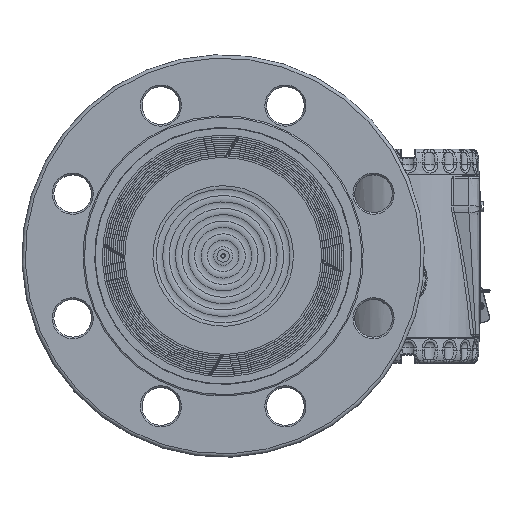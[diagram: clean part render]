
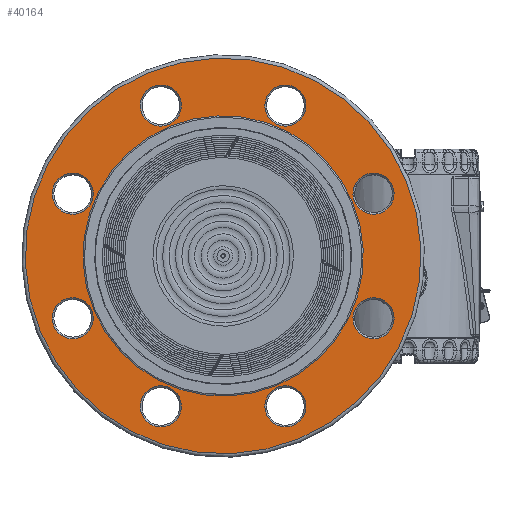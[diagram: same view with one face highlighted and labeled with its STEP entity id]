
A CAD part, top view. The second image highlights one B-rep face of the part: STEP entity #40164.
In plain terms, the highlighted planar face has unit normal (0, 0, 1) as drawn and (-1, 0, 0) by its records, which use the part's own axes.
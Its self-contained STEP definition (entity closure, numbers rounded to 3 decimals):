
#669=FACE_BOUND('',#6639,.T.);
#670=FACE_BOUND('',#6640,.T.);
#671=FACE_BOUND('',#6641,.T.);
#672=FACE_BOUND('',#6642,.T.);
#673=FACE_BOUND('',#6643,.T.);
#674=FACE_BOUND('',#6644,.T.);
#675=FACE_BOUND('',#6645,.T.);
#676=FACE_BOUND('',#6646,.T.);
#677=FACE_BOUND('',#6647,.T.);
#2588=PLANE('',#44620);
#3958=FACE_OUTER_BOUND('',#6638,.T.);
#6638=EDGE_LOOP('',(#30672,#30673));
#6639=EDGE_LOOP('',(#30674));
#6640=EDGE_LOOP('',(#30675));
#6641=EDGE_LOOP('',(#30676));
#6642=EDGE_LOOP('',(#30677));
#6643=EDGE_LOOP('',(#30678,#30679));
#6644=EDGE_LOOP('',(#30680));
#6645=EDGE_LOOP('',(#30681));
#6646=EDGE_LOOP('',(#30682));
#6647=EDGE_LOOP('',(#30683));
#13262=CIRCLE('',#44619,12.);
#13263=CIRCLE('',#44621,115.5);
#13264=CIRCLE('',#44622,115.5);
#13265=CIRCLE('',#44623,12.);
#13266=CIRCLE('',#44624,12.);
#13267=CIRCLE('',#44625,12.);
#13268=CIRCLE('',#44626,12.);
#13269=CIRCLE('',#44627,81.8);
#13270=CIRCLE('',#44628,81.8);
#13271=CIRCLE('',#44629,12.);
#13272=CIRCLE('',#44630,12.);
#13273=CIRCLE('',#44631,12.);
#17605=VERTEX_POINT('',#70997);
#17606=VERTEX_POINT('',#71001);
#17607=VERTEX_POINT('',#71002);
#17608=VERTEX_POINT('',#71005);
#17609=VERTEX_POINT('',#71007);
#17610=VERTEX_POINT('',#71009);
#17611=VERTEX_POINT('',#71011);
#17612=VERTEX_POINT('',#71013);
#17613=VERTEX_POINT('',#71014);
#17614=VERTEX_POINT('',#71017);
#17615=VERTEX_POINT('',#71019);
#17616=VERTEX_POINT('',#71021);
#22240=EDGE_CURVE('',#17605,#17605,#13262,.T.);
#22242=EDGE_CURVE('',#17606,#17607,#13263,.T.);
#22243=EDGE_CURVE('',#17607,#17606,#13264,.T.);
#22244=EDGE_CURVE('',#17608,#17608,#13265,.T.);
#22245=EDGE_CURVE('',#17609,#17609,#13266,.T.);
#22246=EDGE_CURVE('',#17610,#17610,#13267,.T.);
#22247=EDGE_CURVE('',#17611,#17611,#13268,.T.);
#22248=EDGE_CURVE('',#17612,#17613,#13269,.T.);
#22249=EDGE_CURVE('',#17613,#17612,#13270,.T.);
#22250=EDGE_CURVE('',#17614,#17614,#13271,.T.);
#22251=EDGE_CURVE('',#17615,#17615,#13272,.T.);
#22252=EDGE_CURVE('',#17616,#17616,#13273,.T.);
#30672=ORIENTED_EDGE('',*,*,#22242,.F.);
#30673=ORIENTED_EDGE('',*,*,#22243,.F.);
#30674=ORIENTED_EDGE('',*,*,#22244,.F.);
#30675=ORIENTED_EDGE('',*,*,#22245,.F.);
#30676=ORIENTED_EDGE('',*,*,#22246,.F.);
#30677=ORIENTED_EDGE('',*,*,#22247,.F.);
#30678=ORIENTED_EDGE('',*,*,#22248,.T.);
#30679=ORIENTED_EDGE('',*,*,#22249,.T.);
#30680=ORIENTED_EDGE('',*,*,#22250,.F.);
#30681=ORIENTED_EDGE('',*,*,#22251,.F.);
#30682=ORIENTED_EDGE('',*,*,#22252,.F.);
#30683=ORIENTED_EDGE('',*,*,#22240,.F.);
#40164=ADVANCED_FACE('',(#3958,#669,#670,#671,#672,#673,#674,#675,#676,
#677),#2588,.T.);
#44619=AXIS2_PLACEMENT_3D('',#70998,#52546,#52547);
#44620=AXIS2_PLACEMENT_3D('',#71000,#52549,#52550);
#44621=AXIS2_PLACEMENT_3D('',#71003,#52551,#52552);
#44622=AXIS2_PLACEMENT_3D('',#71004,#52553,#52554);
#44623=AXIS2_PLACEMENT_3D('',#71006,#52555,#52556);
#44624=AXIS2_PLACEMENT_3D('',#71008,#52557,#52558);
#44625=AXIS2_PLACEMENT_3D('',#71010,#52559,#52560);
#44626=AXIS2_PLACEMENT_3D('',#71012,#52561,#52562);
#44627=AXIS2_PLACEMENT_3D('',#71015,#52563,#52564);
#44628=AXIS2_PLACEMENT_3D('',#71016,#52565,#52566);
#44629=AXIS2_PLACEMENT_3D('',#71018,#52567,#52568);
#44630=AXIS2_PLACEMENT_3D('',#71020,#52569,#52570);
#44631=AXIS2_PLACEMENT_3D('',#71022,#52571,#52572);
#52546=DIRECTION('center_axis',(-1.,0.,0.));
#52547=DIRECTION('ref_axis',(0.,-0.707,-0.707));
#52549=DIRECTION('center_axis',(-1.,0.,0.));
#52550=DIRECTION('ref_axis',(0.,0.,1.));
#52551=DIRECTION('center_axis',(1.,0.,0.));
#52552=DIRECTION('ref_axis',(0.,1.,0.));
#52553=DIRECTION('center_axis',(1.,0.,0.));
#52554=DIRECTION('ref_axis',(0.,1.,0.));
#52555=DIRECTION('center_axis',(-1.,0.,0.));
#52556=DIRECTION('ref_axis',(0.,-1.,0.));
#52557=DIRECTION('center_axis',(-1.,0.,0.));
#52558=DIRECTION('ref_axis',(0.,0.,1.));
#52559=DIRECTION('center_axis',(-1.,0.,0.));
#52560=DIRECTION('ref_axis',(0.,1.,0.));
#52561=DIRECTION('center_axis',(-1.,0.,0.));
#52562=DIRECTION('ref_axis',(0.,0.,-1.));
#52563=DIRECTION('center_axis',(1.,0.,0.));
#52564=DIRECTION('ref_axis',(0.,1.,0.));
#52565=DIRECTION('center_axis',(1.,0.,0.));
#52566=DIRECTION('ref_axis',(0.,1.,0.));
#52567=DIRECTION('center_axis',(-1.,0.,0.));
#52568=DIRECTION('ref_axis',(0.,0.707,-0.707));
#52569=DIRECTION('center_axis',(-1.,0.,0.));
#52570=DIRECTION('ref_axis',(0.,0.707,0.707));
#52571=DIRECTION('center_axis',(-1.,0.,0.));
#52572=DIRECTION('ref_axis',(0.,-0.707,0.707));
#70997=CARTESIAN_POINT('',(3.,75.66,75.66));
#70998=CARTESIAN_POINT('Origin',(3.,67.175,67.175));
#71000=CARTESIAN_POINT('Origin',(3.,98.65,0.));
#71001=CARTESIAN_POINT('',(3.,115.5,0.));
#71002=CARTESIAN_POINT('',(3.,0.,115.5));
#71003=CARTESIAN_POINT('Origin',(3.,0.,0.));
#71004=CARTESIAN_POINT('Origin',(3.,0.,0.));
#71005=CARTESIAN_POINT('',(3.,107.,0.));
#71006=CARTESIAN_POINT('Origin',(3.,95.,0.));
#71007=CARTESIAN_POINT('',(3.,0.,-107.));
#71008=CARTESIAN_POINT('Origin',(3.,0.,-95.));
#71009=CARTESIAN_POINT('',(3.,-107.,0.));
#71010=CARTESIAN_POINT('Origin',(3.,-95.,0.));
#71011=CARTESIAN_POINT('',(3.,0.,107.));
#71012=CARTESIAN_POINT('Origin',(3.,0.,95.));
#71013=CARTESIAN_POINT('',(3.,81.8,0.));
#71014=CARTESIAN_POINT('',(3.,0.,81.8));
#71015=CARTESIAN_POINT('Origin',(3.,0.,0.));
#71016=CARTESIAN_POINT('Origin',(3.,0.,0.));
#71017=CARTESIAN_POINT('',(3.,-75.66,75.66));
#71018=CARTESIAN_POINT('Origin',(3.,-67.175,67.175));
#71019=CARTESIAN_POINT('',(3.,-75.66,-75.66));
#71020=CARTESIAN_POINT('Origin',(3.,-67.175,-67.175));
#71021=CARTESIAN_POINT('',(3.,75.66,-75.66));
#71022=CARTESIAN_POINT('Origin',(3.,67.175,-67.175));
